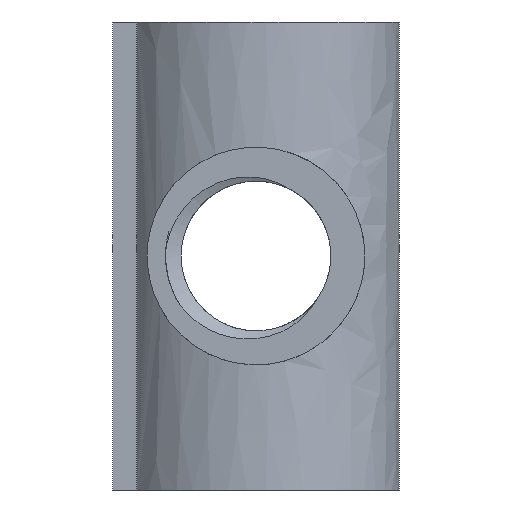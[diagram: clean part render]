
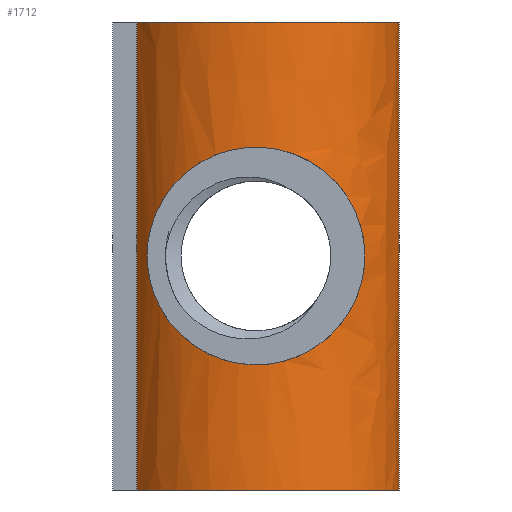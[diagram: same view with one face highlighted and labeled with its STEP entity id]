
A CAD part, front view. The second image highlights one B-rep face of the part: STEP entity #1712.
In plain terms, the highlighted face is a extrusion surface.
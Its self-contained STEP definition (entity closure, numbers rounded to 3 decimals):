
#791=CARTESIAN_POINT('',(-3.284,-1.896,-6.45));
#792=CARTESIAN_POINT('',(-2.973,-2.298,-6.45));
#793=CARTESIAN_POINT('',(-2.149,-2.986,-6.45));
#794=CARTESIAN_POINT('',(-0.531,-3.486,-6.45));
#795=CARTESIAN_POINT('',(1.182,-3.365,-6.45));
#796=CARTESIAN_POINT('',(2.684,-2.644,-6.45));
#797=CARTESIAN_POINT('',(3.708,-1.451,-6.45));
#798=CARTESIAN_POINT('',(3.95,-0.484,-6.45));
#799=CARTESIAN_POINT('',(3.95,0.,-6.45));
#869=CARTESIAN_POINT('',(-3.284,-1.896,6.45));
#870=CARTESIAN_POINT('',(-2.973,-2.298,6.45));
#871=CARTESIAN_POINT('',(-2.149,-2.986,6.45));
#872=CARTESIAN_POINT('',(-0.531,-3.486,6.45));
#873=CARTESIAN_POINT('',(1.182,-3.365,6.45));
#874=CARTESIAN_POINT('',(2.684,-2.644,6.45));
#875=CARTESIAN_POINT('',(3.708,-1.451,6.45));
#876=CARTESIAN_POINT('',(3.95,-0.484,6.45));
#877=CARTESIAN_POINT('',(3.95,0.,6.45));
#909=DIRECTION('',(0.,0.,1.));
#910=VECTOR('',#909,12.9);
#911=CARTESIAN_POINT('',(3.95,0.,-6.45));
#912=LINE('',#911,#910);
#923=DIRECTION('',(0.,0.,1.));
#924=VECTOR('',#923,12.9);
#925=CARTESIAN_POINT('',(-3.284,-1.896,-6.45));
#926=LINE('',#925,#924);
#930=CARTESIAN_POINT('',(-3.,-2.219,0.));
#931=CARTESIAN_POINT('',(-3.,-2.219,0.109));
#932=CARTESIAN_POINT('',(-2.988,-2.231,
0.339));
#933=CARTESIAN_POINT('',(-2.92,-2.298,
0.726));
#934=CARTESIAN_POINT('',(-2.793,-2.415,1.122));
#935=CARTESIAN_POINT('',(-2.599,-2.573,1.52));
#936=CARTESIAN_POINT('',(-2.336,-2.757,1.902));
#937=CARTESIAN_POINT('',(-2.002,-2.949,2.251));
#938=CARTESIAN_POINT('',(-1.629,-3.115,2.533));
#939=CARTESIAN_POINT('',(-1.235,-3.247,2.746));
#940=CARTESIAN_POINT('',(-0.831,-3.342,
2.893));
#941=CARTESIAN_POINT('',(-0.415,-3.4,
2.981));
#942=CARTESIAN_POINT('',(0.005,-3.418,3.01));
#943=CARTESIAN_POINT('',(0.417,-3.399,2.98));
#944=CARTESIAN_POINT('',(0.828,-3.342,2.894));
#945=CARTESIAN_POINT('',(1.231,-3.249,2.747));
#946=CARTESIAN_POINT('',(1.627,-3.116,2.534));
#947=CARTESIAN_POINT('',(1.998,-2.95,2.255));
#948=CARTESIAN_POINT('',(2.336,-2.758,1.903));
#949=CARTESIAN_POINT('',(2.603,-2.571,1.514));
#950=CARTESIAN_POINT('',(2.795,-2.413,1.117));
#951=CARTESIAN_POINT('',(2.92,-2.298,0.726));
#952=CARTESIAN_POINT('',(2.988,-2.231,0.342));
#953=CARTESIAN_POINT('',(3.,-2.219,0.11));
#954=CARTESIAN_POINT('',(3.,-2.219,0.));
#959=CARTESIAN_POINT('',(3.,-2.219,0.));
#960=CARTESIAN_POINT('',(3.,-2.219,-0.111));
#961=CARTESIAN_POINT('',(2.988,-2.232,
-0.344));
#962=CARTESIAN_POINT('',(2.92,-2.299,
-0.727));
#963=CARTESIAN_POINT('',(2.794,-2.414,-1.119));
#964=CARTESIAN_POINT('',(2.603,-2.571,-1.515));
#965=CARTESIAN_POINT('',(2.335,-2.758,-1.904));
#966=CARTESIAN_POINT('',(1.997,-2.951,-2.256));
#967=CARTESIAN_POINT('',(1.626,-3.116,-2.535));
#968=CARTESIAN_POINT('',(1.23,-3.249,-2.748));
#969=CARTESIAN_POINT('',(0.828,-3.343,
-2.894));
#970=CARTESIAN_POINT('',(0.416,-3.399,
-2.981));
#971=CARTESIAN_POINT('',(0.004,-3.418,
-3.01));
#972=CARTESIAN_POINT('',(-0.416,-3.4,
-2.981));
#973=CARTESIAN_POINT('',(-0.832,-3.342,
-2.893));
#974=CARTESIAN_POINT('',(-1.235,-3.247,
-2.745));
#975=CARTESIAN_POINT('',(-1.63,-3.115,
-2.533));
#976=CARTESIAN_POINT('',(-2.002,-2.948,
-2.251));
#977=CARTESIAN_POINT('',(-2.337,-2.757,
-1.901));
#978=CARTESIAN_POINT('',(-2.6,-2.573,
-1.519));
#979=CARTESIAN_POINT('',(-2.794,-2.414,
-1.121));
#980=CARTESIAN_POINT('',(-2.921,-2.298,
-0.725));
#981=CARTESIAN_POINT('',(-2.989,-2.231,
-0.337));
#982=CARTESIAN_POINT('',(-3.,-2.219,-0.108));
#983=CARTESIAN_POINT('',(-3.,-2.219,0.));
#1275=CARTESIAN_POINT('',(-3.284,-1.896,6.45));
#1277=VERTEX_POINT('',#1275);
#1278=CARTESIAN_POINT('',(-3.284,-1.896,-6.45));
#1280=VERTEX_POINT('',#1278);
#1284=VERTEX_POINT('',#877);
#1285=CARTESIAN_POINT('',(3.95,0.,-6.45));
#1286=VERTEX_POINT('',#1285);
#1289=VERTEX_POINT('',#930);
#1290=VERTEX_POINT('',#954);
#1684=CARTESIAN_POINT('',(-3.341,-1.82,6.45));
#1685=CARTESIAN_POINT('',(-3.323,-1.845,6.45));
#1686=CARTESIAN_POINT('',(-2.999,-2.277,6.45));
#1687=CARTESIAN_POINT('',(-2.149,-2.986,6.45));
#1688=CARTESIAN_POINT('',(-0.531,-3.486,6.45));
#1689=CARTESIAN_POINT('',(1.182,-3.365,6.45));
#1690=CARTESIAN_POINT('',(2.684,-2.644,6.45));
#1691=CARTESIAN_POINT('',(3.708,-1.451,6.45));
#1692=CARTESIAN_POINT('',(3.965,-0.426,6.45));
#1693=CARTESIAN_POINT('',(3.948,0.116,6.45));
#1694=CARTESIAN_POINT('',(3.945,0.174,6.45));
#1696=DIRECTION('',(0.,0.,1.));
#1697=VECTOR('',#1696,1.);
#1698=SURFACE_OF_LINEAR_EXTRUSION('',#1695,#1697);
#1699=ORIENTED_EDGE('',*,*,#1660,.T.);
#1700=ORIENTED_EDGE('',*,*,#1676,.F.);
#1701=ORIENTED_EDGE('',*,*,#1614,.F.);
#1703=ORIENTED_EDGE('',*,*,#1702,.T.);
#1704=EDGE_LOOP('',(#1699,#1700,#1701,#1703));
#1705=FACE_OUTER_BOUND('',#1704,.F.);
#1707=ORIENTED_EDGE('',*,*,#1706,.F.);
#1709=ORIENTED_EDGE('',*,*,#1708,.F.);
#1710=EDGE_LOOP('',(#1707,#1709));
#1711=FACE_BOUND('',#1710,.F.);
#800=B_SPLINE_CURVE_WITH_KNOTS('',3,(#791,#792,#793,#794,#795,#796,#797,#798,
#799),.UNSPECIFIED.,.F.,.F.,(4,1,1,1,1,1,4),(0.,0.167,
0.333,0.5,0.667,0.833,1.),
.UNSPECIFIED.);
#878=B_SPLINE_CURVE_WITH_KNOTS('',3,(#869,#870,#871,#872,#873,#874,#875,#876,
#877),.UNSPECIFIED.,.F.,.F.,(4,1,1,1,1,1,4),(0.,0.167,
0.333,0.5,0.667,0.833,1.),
.UNSPECIFIED.);
#955=B_SPLINE_CURVE_WITH_KNOTS('',3,(#930,#931,#932,#933,#934,#935,#936,#937,
#938,#939,#940,#941,#942,#943,#944,#945,#946,#947,#948,#949,#950,#951,#952,#953,
#954),.UNSPECIFIED.,.F.,.F.,(4,1,1,1,1,1,1,1,1,1,1,1,1,1,1,1,1,1,1,1,1,1,4),(
0.,0.045,0.091,0.136,0.182,
0.227,0.273,0.318,0.364,
0.409,0.455,0.5,0.545,0.591,
0.636,0.682,0.727,0.773,
0.818,0.864,0.909,0.955,1.),
.UNSPECIFIED.);
#984=B_SPLINE_CURVE_WITH_KNOTS('',3,(#959,#960,#961,#962,#963,#964,#965,#966,
#967,#968,#969,#970,#971,#972,#973,#974,#975,#976,#977,#978,#979,#980,#981,#982,
#983),.UNSPECIFIED.,.F.,.F.,(4,1,1,1,1,1,1,1,1,1,1,1,1,1,1,1,1,1,1,1,1,1,4),(
0.,0.045,0.091,0.136,0.182,
0.227,0.273,0.318,0.364,
0.409,0.455,0.5,0.545,0.591,
0.636,0.682,0.727,0.773,
0.818,0.864,0.909,0.955,1.),
.UNSPECIFIED.);
#1614=EDGE_CURVE('',#1280,#1286,#800,.T.);
#1660=EDGE_CURVE('',#1277,#1284,#878,.T.);
#1676=EDGE_CURVE('',#1286,#1284,#912,.T.);
#1695=B_SPLINE_CURVE_WITH_KNOTS('',3,(#1684,#1685,#1686,#1687,#1688,#1689,#1690,
#1691,#1692,#1693,#1694),.UNSPECIFIED.,.F.,.F.,(4,1,1,1,1,1,1,1,4),(0.,
0.01,0.172,0.334,0.495,
0.657,0.819,0.981,1.),.UNSPECIFIED.);
#1702=EDGE_CURVE('',#1280,#1277,#926,.T.);
#1706=EDGE_CURVE('',#1289,#1290,#955,.T.);
#1708=EDGE_CURVE('',#1290,#1289,#984,.T.);
#1712=ADVANCED_FACE('',(#1705,#1711),#1698,.T.);
